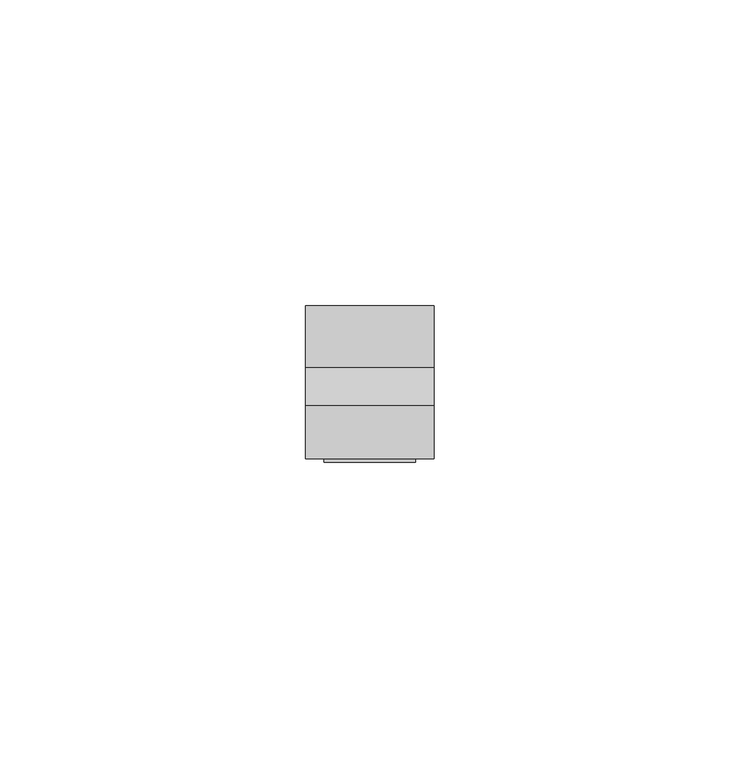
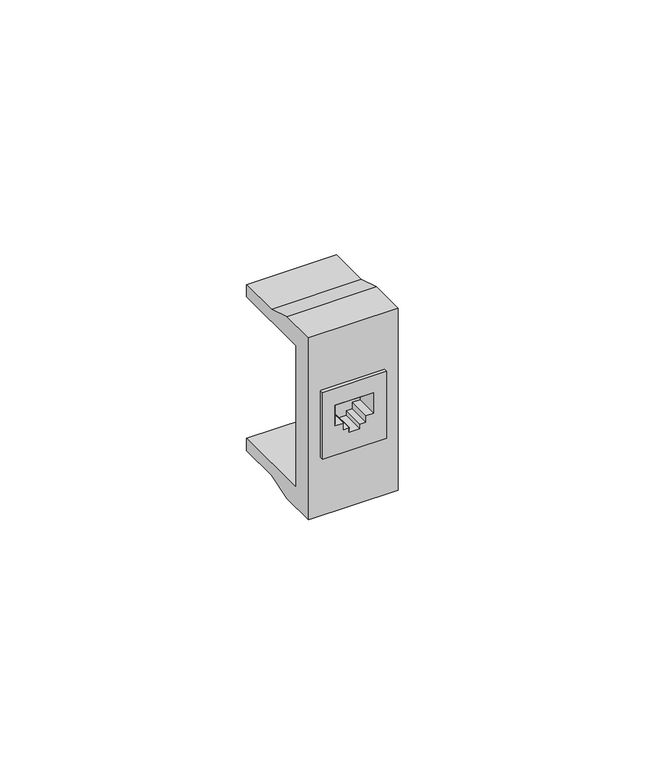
"""IFC4 building model written with IfcOpenShell, lengths in millimetres: proxy geometry, КНС_ТелефонныеРозетки_DKC : Белый."""

from ifc_helpers import new_model, si_unit, origin, place, context, project, spatial, faceted_brep, source, transform, mapped, element, save


def electrical_fixtures_bf38bc20(model_context):
    return source(origin(), model_context, "Body", "Brep", [
        faceted_brep([(7.476911, -25.5, 8.25), (-7.523089, -25.5, 8.25), (-7.523089, -25.5, -8.25), (7.476911, -25.5, -8.25), (-2.6213903, -25.5, -1.0094154), (-4.523089, -25.5, -1.0094154), (-4.523089, -25.5, 4.0137937), (4.476911, -25.5, 4.0137937), (4.476911, -25.5, -1.0094154), (2.5752123, -25.5, -1.0094154), (2.5752123, -25.5, -2.6364348), (1.2084424, -25.5, -2.6364348), (1.2084424, -25.5, -3.7403811), (-1.2546204, -25.5, -3.7403811), (-1.2546204, -25.5, -2.6364348), (-2.6213903, -25.5, -2.6364348), (7.476911, -16.2913439, 8.25), (7.476911, -16.2913439, -8.25), (-7.523089, -16.2913439, -8.25), (-7.523089, -16.2913439, 8.25), (-4.523089, -20.0, -1.0094154), (-2.6213903, -20.0, -1.0094154), (-2.6213903, -20.0, -2.6364348), (-1.2546204, -20.0, -2.6364348), (-1.2546204, -20.0, -3.7403811), (1.2084424, -20.0, -3.7403811), (1.2084424, -20.0, -2.6364348), (2.5752123, -20.0, -2.6364348), (2.5752123, -20.0, -1.0094154), (4.476911, -20.0, -1.0094154), (4.476911, -20.0, 4.0137937), (-4.523089, -20.0, 4.0137937)], [[[0, 1, 2, 3], [4, 5, 6, 7, 8, 9, 10, 11, 12, 13, 14, 15]], [[16, 17, 18, 19]], [[1, 0, 16, 19]], [[2, 1, 19, 18]], [[3, 2, 18, 17]], [[0, 3, 17, 16]], [[20, 21, 22, 23, 24, 25, 26, 27, 28, 29, 30, 31]], [[21, 20, 5, 4]], [[22, 21, 4, 15]], [[23, 22, 15, 14]], [[24, 23, 14, 13]], [[25, 24, 13, 12]], [[26, 25, 12, 11]], [[27, 26, 11, 10]], [[28, 27, 10, 9]], [[29, 28, 9, 8]], [[30, 29, 8, 7]], [[31, 30, 7, 6]], [[20, 31, 6, 5]]]),
        faceted_brep([(7.476911, -25.5, 8.25), (-7.476911, -25.5, 8.25), (-7.476911, -25.5, -8.25), (7.476911, -25.5, -8.25), (1.2084424, -25.5, -3.7403811), (-1.2084424, -25.5, -3.7403811), (-1.2084424, -25.5, -2.6364348), (-2.5752123, -25.5, -2.6364348), (-2.5752123, -25.5, -1.0094154), (-4.476911, -25.5, -1.0094154), (-4.476911, -25.5, 4.0137937), (4.476911, -25.5, 4.0137937), (4.476911, -25.5, -1.0094154), (2.5752123, -25.5, -1.0094154), (2.5752123, -25.5, -2.6364348), (1.2084424, -25.5, -2.6364348), (7.476911, -16.2913439, 8.25), (7.476911, -16.2913439, -8.25), (-7.476911, -16.2913439, -8.25), (-7.476911, -16.2913439, 8.25), (4.476911, -20.0, -1.0094154), (4.476911, -20.0, 4.0137937), (-4.476911, -20.0, 4.0137937), (-4.476911, -20.0, -1.0094154), (-2.5752123, -20.0, -1.0094154), (-2.5752123, -20.0, -2.6364348), (-1.2084424, -20.0, -2.6364348), (-1.2084424, -20.0, -3.7403811), (1.2084424, -20.0, -3.7403811), (1.2084424, -20.0, -2.6364348), (2.5752123, -20.0, -2.6364348), (2.5752123, -20.0, -1.0094154)], [[[0, 1, 2, 3], [4, 5, 6, 7, 8, 9, 10, 11, 12, 13, 14, 15]], [[16, 17, 18, 19]], [[1, 0, 16, 19]], [[2, 1, 19, 18]], [[3, 2, 18, 17]], [[0, 3, 17, 16]], [[20, 21, 22, 23, 24, 25, 26, 27, 28, 29, 30, 31]], [[28, 27, 5, 4]], [[29, 28, 4, 15]], [[30, 29, 15, 14]], [[31, 30, 14, 13]], [[20, 31, 13, 12]], [[21, 20, 12, 11]], [[22, 21, 11, 10]], [[23, 22, 10, 9]], [[24, 23, 9, 8]], [[25, 24, 8, 7]], [[26, 25, 7, 6]], [[27, 26, 6, 5]]]),
        faceted_brep([(10.5, -25.0, 22.5), (-10.5, -25.0, 22.5), (-10.5, -25.0, -22.5), (10.5, -25.0, -22.5), (-2.6213903, -25.0, -1.0094154), (-4.523089, -25.0, -1.0094154), (-4.523089, -25.0, 4.0137937), (4.476911, -25.0, 4.0137937), (4.476911, -25.0, -1.0094154), (2.5752123, -25.0, -1.0094154), (2.5752123, -25.0, -2.6364348), (1.2084424, -25.0, -2.6364348), (1.2084424, -25.0, -3.7403811), (-1.2546204, -25.0, -3.7403811), (-1.2546204, -25.0, -2.6364348), (-2.6213903, -25.0, -2.6364348), (10.5, 0.0, 20.5), (10.5, 0.0, 17.5), (-10.5, 0.0, 17.5), (-10.5, 0.0, 20.5), (10.5, 0.0, -17.5), (10.5, 0.0, -20.5), (-10.5, 0.0, -20.5), (-10.5, 0.0, -17.5), (10.5, -16.2913439, 22.5), (-10.5, -16.2913439, 22.5), (-10.5, -10.0, 20.5), (-10.5, -20.0, 17.5), (-10.5, -20.0, -17.5), (-10.5, -10.0, -20.5), (-10.5, -16.2913439, -22.5), (10.5, -16.2913439, -22.5), (10.5, -10.0, -20.5), (10.5, -20.0, -17.5), (10.5, -20.0, 17.5), (10.5, -10.0, 20.5), (-4.523089, -20.0, -1.0094154), (-2.6213903, -20.0, -1.0094154), (-2.6213903, -20.0, -2.6364348), (-1.2546204, -20.0, -2.6364348), (-1.2546204, -20.0, -3.7403811), (1.2084424, -20.0, -3.7403811), (1.2084424, -20.0, -2.6364348), (2.5752123, -20.0, -2.6364348), (2.5752123, -20.0, -1.0094154), (4.476911, -20.0, -1.0094154), (4.476911, -20.0, 4.0137937), (-4.523089, -20.0, 4.0137937)], [[[0, 1, 2, 3], [4, 5, 6, 7, 8, 9, 10, 11, 12, 13, 14, 15]], [[16, 17, 18, 19]], [[20, 21, 22, 23]], [[1, 0, 24, 25]], [[2, 1, 25, 26, 19, 18, 27, 28, 23, 22, 29, 30]], [[3, 2, 30, 31]], [[0, 3, 31, 32, 21, 20, 33, 34, 17, 16, 35, 24]], [[28, 33, 20, 23]], [[34, 27, 18, 17]], [[33, 28, 27, 34], [36, 37, 38, 39, 40, 41, 42, 43, 44, 45, 46, 47]], [[26, 35, 16, 19]], [[35, 26, 25, 24]], [[32, 29, 22, 21]], [[29, 32, 31, 30]], [[36, 5, 4, 37]], [[37, 4, 15, 38]], [[38, 15, 14, 39]], [[39, 14, 13, 40]], [[40, 13, 12, 41]], [[41, 12, 11, 42]], [[42, 11, 10, 43]], [[43, 10, 9, 44]], [[44, 9, 8, 45]], [[45, 8, 7, 46]], [[46, 7, 6, 47]], [[5, 36, 47, 6]]]),
    ])


if __name__ == "__main__":
    model = new_model("IFC4")
    model_context = context("Model", 3, world=origin())
    ifc_project = project(units=[si_unit("LENGTHUNIT", "METRE", prefix="MILLI")], contexts=[model_context])
    site = spatial("IfcSite", under=ifc_project)
    building = spatial("IfcBuilding", under=site)
    placement = place(None, origin())
    electrical_fixtures_shape = electrical_fixtures_bf38bc20(model_context)
    element("IfcBuildingElementProxy", 1, Name="КНС_ТелефонныеРозетки_DKC : Белый", ObjectType="КНС_ТелефонныеРозетки_DKC : Белый", at=placement, inside=building, context=model_context, shape_type="MappedRepresentation", body=[
        mapped(electrical_fixtures_shape, transform((0.0, 0.0, 0.0), x_axis=(1.0, 0.0, 0.0), y_axis=(0.0, 1.0, 0.0), z_axis=(0.0, 0.0, 1.0))),
    ])
    save(model, "model.ifc")
